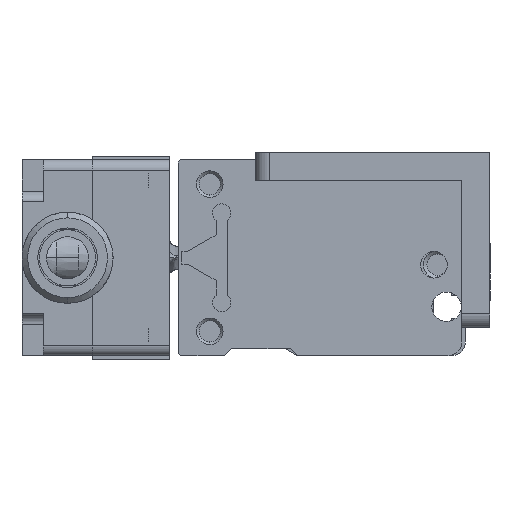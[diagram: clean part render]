
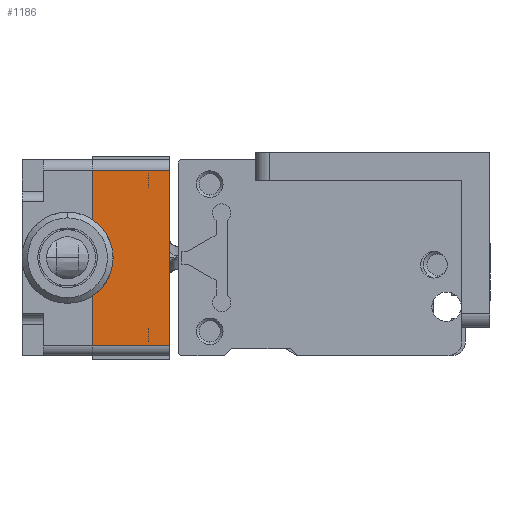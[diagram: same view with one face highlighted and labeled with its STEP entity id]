
A CAD part, left-side view. The second image highlights one B-rep face of the part: STEP entity #1186.
In plain terms, the highlighted planar face has unit normal (-1, 0, 0).
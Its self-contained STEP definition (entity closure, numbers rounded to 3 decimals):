
#421 = CARTESIAN_POINT ( 'NONE',  ( -0.373, -56.718, -12.5 ) ) ;
#760 = CARTESIAN_POINT ( 'NONE',  ( -0.373, -45.718, 12.5 ) ) ;
#808 = CARTESIAN_POINT ( 'NONE',  ( -0.373, -56.718, 12.5 ) ) ;
#816 = CARTESIAN_POINT ( 'NONE',  ( -0.373, -45.718, -12.5 ) ) ;
#1186 = ADVANCED_FACE ( 'NONE', ( #7516 ), #13404, .F. ) ;
#6375 = VERTEX_POINT ( 'NONE', #421 ) ;
#6514 = VERTEX_POINT ( 'NONE', #816 ) ;
#6522 = VERTEX_POINT ( 'NONE', #808 ) ;
#6567 = VERTEX_POINT ( 'NONE', #760 ) ;
#7459 = EDGE_CURVE ( 'NONE', #6567, #6522, #17872, .T. ) ;
#7461 = EDGE_CURVE ( 'NONE', #6375, #6514, #17876, .T. ) ;
#7516 = FACE_OUTER_BOUND ( 'NONE', #18738, .T. ) ;
#9650 = EDGE_CURVE ( 'NONE', #6514, #6567, #17966, .T. ) ;
#9653 = EDGE_CURVE ( 'NONE', #6375, #6522, #17965, .T. ) ;
#11038 = AXIS2_PLACEMENT_3D ( 'NONE', #13405, #13382, #13377 ) ;
#13377 = DIRECTION ( 'NONE',  ( 0., 0., -1. ) ) ;
#13382 = DIRECTION ( 'NONE',  ( 1., 0., 0. ) ) ;
#13404 = PLANE ( 'NONE',  #11038 ) ;
#13405 = CARTESIAN_POINT ( 'NONE',  ( -0.373, -56.938, 13. ) ) ;
#15062 = CARTESIAN_POINT ( 'NONE',  ( -0.373, -45.718, 12.5 ) ) ;
#15063 = DIRECTION ( 'NONE',  ( 0., -1., 0. ) ) ;
#15066 = CARTESIAN_POINT ( 'NONE',  ( -0.373, -56.938, -12.5 ) ) ;
#15067 = DIRECTION ( 'NONE',  ( 0., 1., 0. ) ) ;
#15268 = CARTESIAN_POINT ( 'NONE',  ( -0.373, -45.718, 15.08 ) ) ;
#15269 = DIRECTION ( 'NONE',  ( 0., 0., 1. ) ) ;
#15275 = CARTESIAN_POINT ( 'NONE',  ( -0.373, -56.718, 15.08 ) ) ;
#15276 = DIRECTION ( 'NONE',  ( 0., 0., 1. ) ) ;
#16210 = ORIENTED_EDGE ( 'NONE', *, *, #9653, .T. ) ;
#16211 = ORIENTED_EDGE ( 'NONE', *, *, #7459, .F. ) ;
#16212 = ORIENTED_EDGE ( 'NONE', *, *, #9650, .F. ) ;
#16213 = ORIENTED_EDGE ( 'NONE', *, *, #7461, .F. ) ;
#17872 = LINE ( 'NONE', #15062, #17873 ) ;
#17873 = VECTOR ( 'NONE', #15063, 1000. ) ;
#17876 = LINE ( 'NONE', #15066, #17877 ) ;
#17877 = VECTOR ( 'NONE', #15067, 1000. ) ;
#17965 = LINE ( 'NONE', #15275, #17969 ) ;
#17966 = LINE ( 'NONE', #15268, #17967 ) ;
#17967 = VECTOR ( 'NONE', #15269, 1000. ) ;
#17969 = VECTOR ( 'NONE', #15276, 1000. ) ;
#18738 = EDGE_LOOP ( 'NONE', ( #16210, #16211, #16212, #16213 ) ) ;
